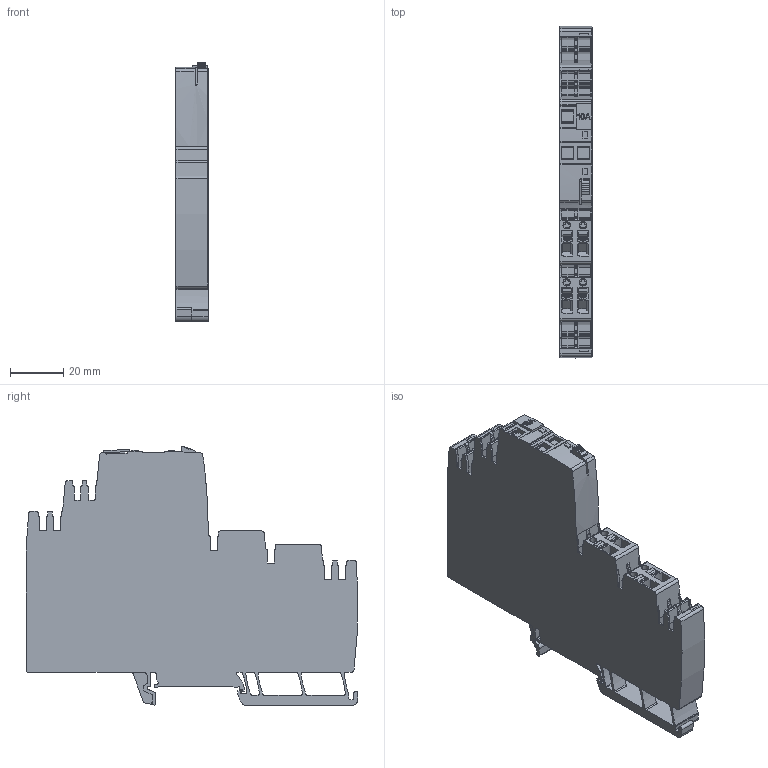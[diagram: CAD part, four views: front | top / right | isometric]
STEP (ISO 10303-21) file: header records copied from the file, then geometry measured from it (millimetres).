
FILE_DESCRIPTION(('CATIA V5R24 STEP','CAx-IF Rec.Pracs.--- Model Styling and Organization---1.2---2011-12-15'),'2;1');
FILE_NAME('\\SRVDE107\Germany\WMC\1_WMC_Input\Step_BU_PA\2082430000.stp','2017-08-31T09:31:16+00:00',('Weidmueller Interface'),('WI'),'CATIA Version 5-6 Release 2014 SP4','CATIA V5 STEP AP214','none');
FILE_SCHEMA(('AUTOMOTIVE_DESIGN { 1 0 10303 214 1 1 1 1 }'));
Length unit declared in the file: millimetre
Products named in the file (1): 2082430000
Bounding box: 12.1 x 125.07 x 97.53 mm (x, y, z)
Volume: 94461.7 mm3; surface area: 30886.9 mm2
Topology: 14 solids, 14 shells, 1536 faces, 4636 edges, 3169 vertices
Faces by surface type: plane 865, cylinder 600, extrusion 69, bspline 2
Entity records: 53645 total; most frequent: CARTESIAN_POINT 12099, ORIENTED_EDGE 9272, DIRECTION 6710, EDGE_CURVE 4614, VERTEX_POINT 3147, VECTOR 3126, LINE 3057, AXIS2_PLACEMENT_3D 2395
